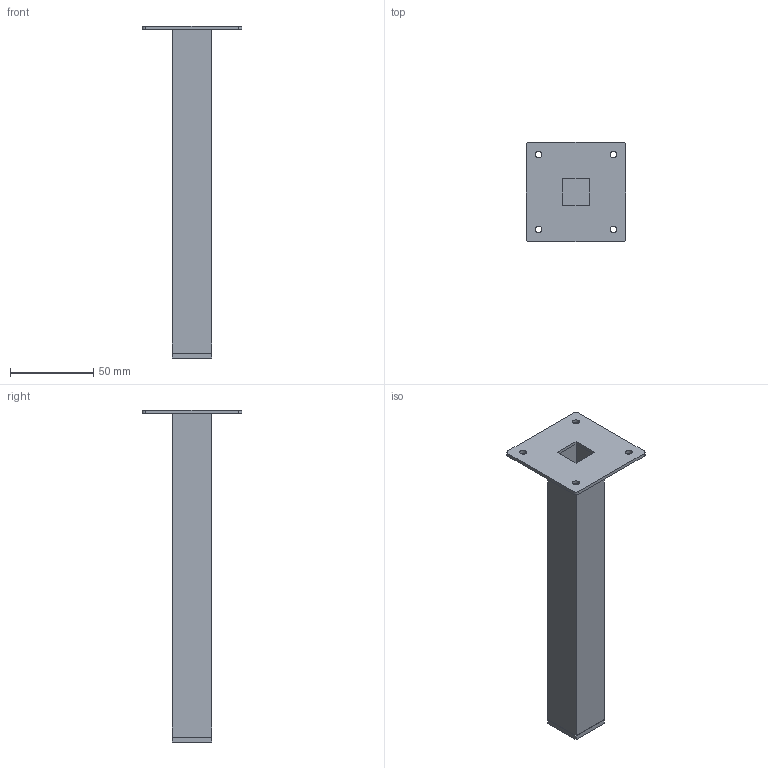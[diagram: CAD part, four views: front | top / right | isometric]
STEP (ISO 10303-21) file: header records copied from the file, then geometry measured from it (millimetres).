
FILE_DESCRIPTION( ( '' ), '1' );
FILE_NAME( 'D:/temp/hettich_stp/hettich/6.5_furniture_legs/table_legs/1378.stp', '2013-02-26T12:27:09', ( '' ), ( '' ), ' ', ' ', ' ' );
FILE_SCHEMA( ( 'automotive_design' ) );
Length unit declared in the file: millimetre
Products named in the file (1): 1
Bounding box: 60 x 60 x 200 mm (x, y, z)
Volume: 26230.4 mm3; surface area: 44598.9 mm2
Topology: 1 solids, 1 shells, 43 faces, 108 edges, 72 vertices
Faces by surface type: plane 31, cylinder 12
Entity records: 2570 total; most frequent: STYLED_ITEM 224, PRESENTATION_STYLE_ASSIGNMENT 224, CARTESIAN_POINT 224, COLOUR_RGB 224, DIRECTION 220, ORIENTED_EDGE 216, EDGE_CURVE 108, CURVE_STYLE 108
